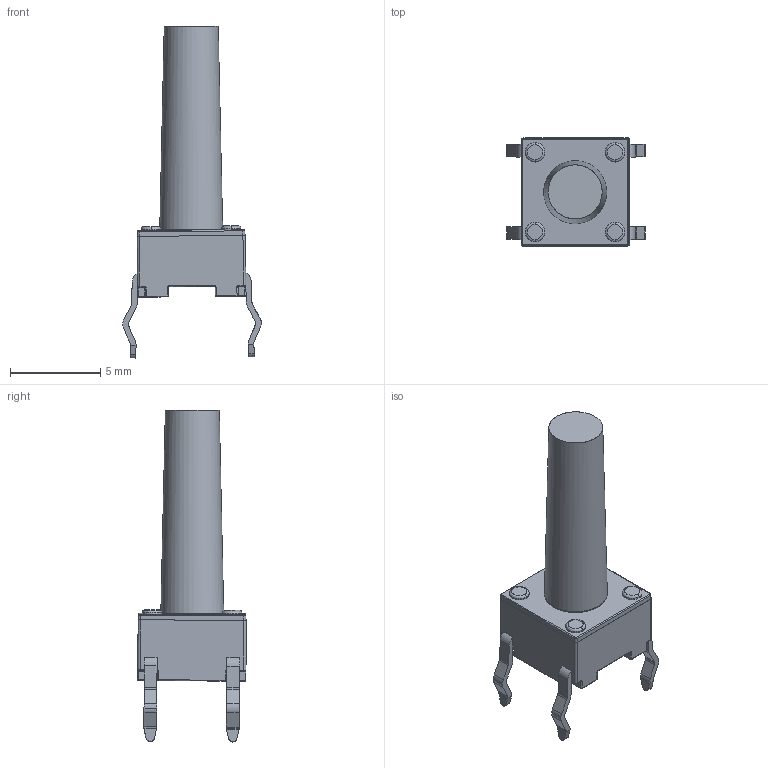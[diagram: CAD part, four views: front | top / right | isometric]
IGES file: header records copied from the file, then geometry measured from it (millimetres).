
Global section: file name: Filename.iges; native system: Open CASCADE 7.3; preprocessor: Open CASCADE IGES processor 7.3; date: 20210813.145328; units: millimetre
Bounding box: 7.69 x 6.03 x 18.44 mm (x, y, z)
Surface area: 333.1 mm2 (no closed solid volume)
Topology: 0 solids, 0 shells, 294 faces, 1410 edges, 1382 vertices
Faces by surface type: revolution 204, plane 90
